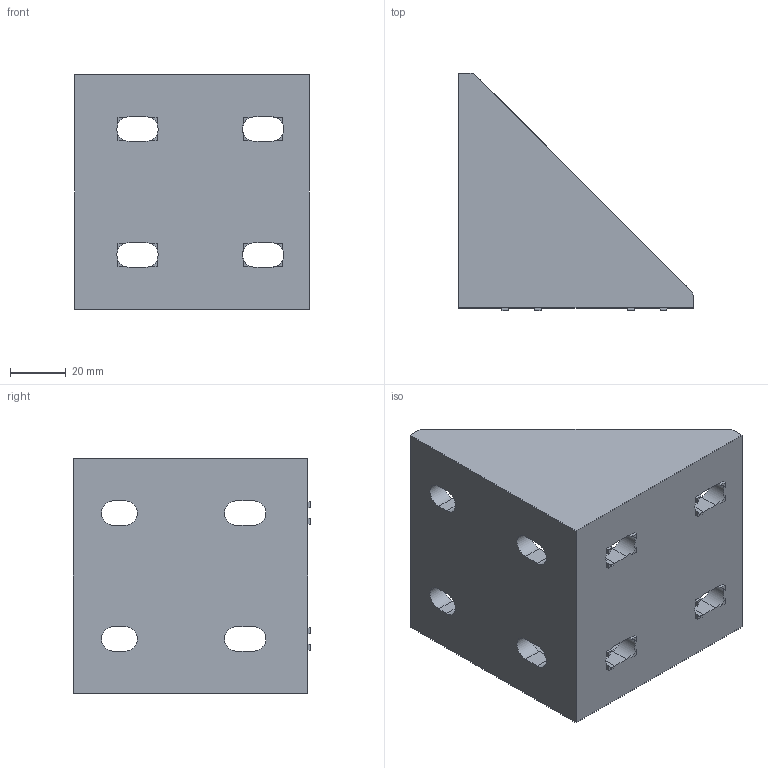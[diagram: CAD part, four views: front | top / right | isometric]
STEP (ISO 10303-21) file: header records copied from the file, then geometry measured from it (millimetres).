
FILE_DESCRIPTION (( 'STEP AP214' ), '1' );
FILE_NAME ('SL03005.step', '2024-12-03T16:31:05', ( '' ), ( '' ), 'SwSTEP 2.0', 'SolidWorks 2023', '' );
FILE_SCHEMA (( 'AUTOMOTIVE_DESIGN' ));
Length unit declared in the file: millimetre
Products named in the file (1): SL03005
Bounding box: 84 x 85 x 84 mm (x, y, z)
Volume: 116775.5 mm3; surface area: 41454 mm2
Topology: 1 solids, 1 shells, 105 faces, 301 edges, 198 vertices
Faces by surface type: plane 76, cylinder 23, torus 6
Entity records: 3514 total; most frequent: CARTESIAN_POINT 633, ORIENTED_EDGE 602, DIRECTION 597, EDGE_CURVE 301, LINE 209, VECTOR 209, VERTEX_POINT 198, AXIS2_PLACEMENT_3D 194
